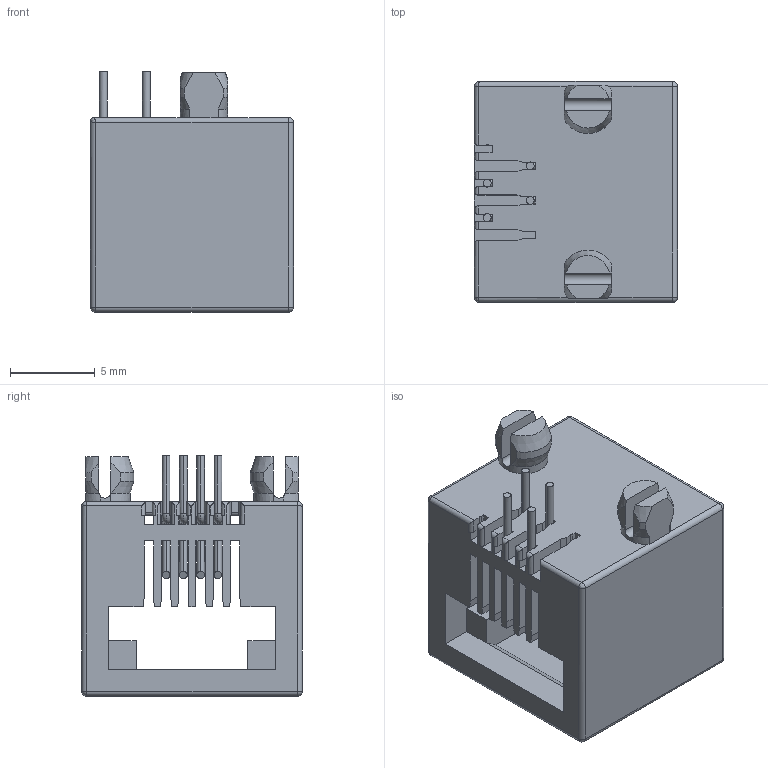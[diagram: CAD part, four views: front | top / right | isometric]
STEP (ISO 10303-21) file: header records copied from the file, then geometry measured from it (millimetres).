
FILE_DESCRIPTION((''),'2;1');
FILE_NAME('DGKYD53241166IWA1DY1017','2024-08-31T14:17:55',('DGKYD'),(''),'CREO PARAMETRIC BY PTC INC, 2019010','CREO PARAMETRIC BY PTC INC, 2019010','');
FILE_SCHEMA(('CONFIG_CONTROL_DESIGN'));
Length unit declared in the file: millimetre
Products named in the file (1): DGKYD53241166IWA1DY1017
Bounding box: 12 x 13.04 x 14.2 mm (x, y, z)
Volume: 853.4 mm3; surface area: 1524.7 mm2
Topology: 1 solids, 1 shells, 329 faces, 978 edges, 624 vertices
Faces by surface type: plane 191, cylinder 91, torus 16, bspline 13, cone 12, sphere 6
Entity records: 11690 total; most frequent: CARTESIAN_POINT 2936, ORIENTED_EDGE 1944, DIRECTION 1705, EDGE_CURVE 972, VECTOR 645, LINE 645, VERTEX_POINT 624, AXIS2_PLACEMENT_3D 530
